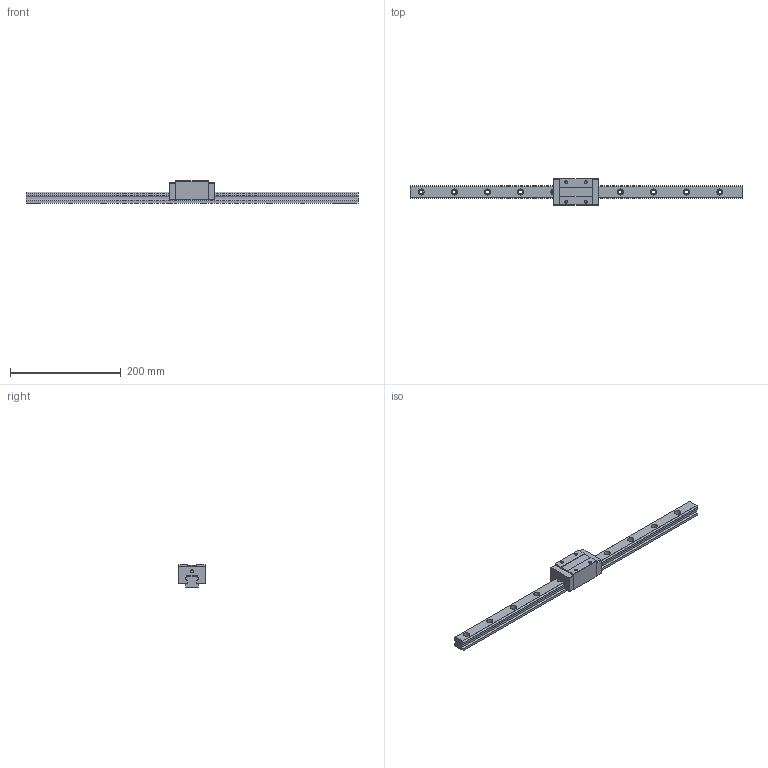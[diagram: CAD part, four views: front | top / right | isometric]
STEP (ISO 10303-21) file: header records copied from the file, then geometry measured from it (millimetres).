
FILE_DESCRIPTION(/* description */ (''),/* implementation_level */ '2;1');
FILE_NAME(/* name */ 'TRH25VN-XN.stp',/* time_stamp */ '2017-10-25T15:06:25+08:00',/* author */ (''),/* organization */ (''),/* preprocessor_version */ 'ST-DEVELOPER v11',/* originating_system */ 'SIEMENS UGS NX 6.0',/* authorisation */ '');
FILE_SCHEMA (('AUTOMOTIVE_DESIGN { 1 0 10303 214 1 1 1 1 }'));
Length unit declared in the file: millimetre
Products named in the file (1): TRH25VN-XN
Bounding box: 600 x 48 x 40 mm (x, y, z)
Volume: 338587.9 mm3; surface area: 77791.5 mm2
Topology: 2 solids, 2 shells, 130 faces, 332 edges, 218 vertices
Faces by surface type: plane 76, cylinder 46, cone 8
Full cylindrical faces by diameter (mm): 5 x6, 7 x10, 11 x10
Entity records: 4218 total; most frequent: DIRECTION 638, CARTESIAN_POINT 615, ORIENTED_EDGE 560, EDGE_CURVE 280, AXIS2_PLACEMENT_3D 227, VERTEX_POINT 204, EDGE_LOOP 196, LINE 184
